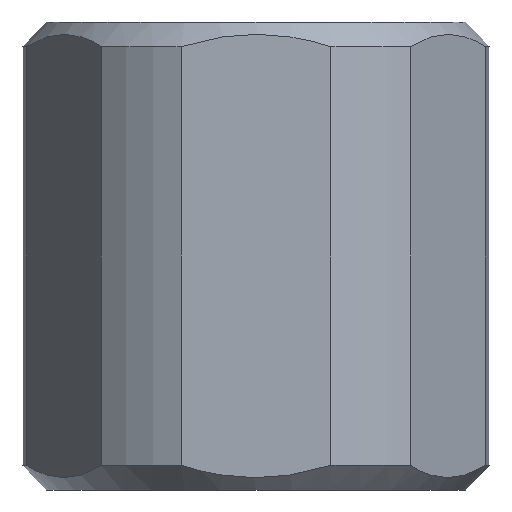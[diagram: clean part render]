
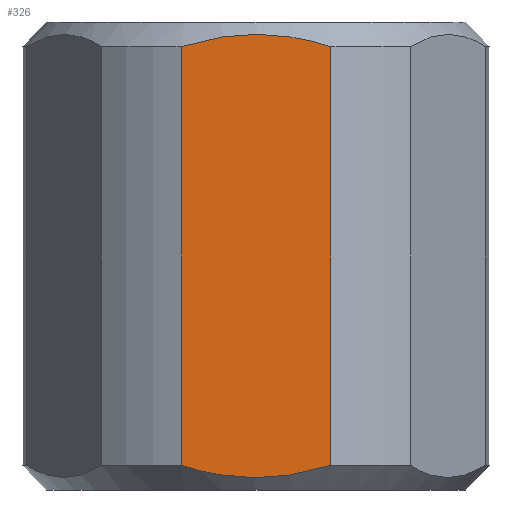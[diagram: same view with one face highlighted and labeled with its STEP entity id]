
A CAD part, left-side view. The second image highlights one B-rep face of the part: STEP entity #326.
In plain terms, the highlighted planar face has unit normal (-1, 0, 0).
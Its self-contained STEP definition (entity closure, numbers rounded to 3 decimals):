
#47=FACE_OUTER_BOUND('',#66,.T.);
#66=EDGE_LOOP('',(#218,#219,#220,#221));
#87=LINE('',#509,#104);
#88=LINE('',#514,#105);
#104=VECTOR('',#410,10.);
#105=VECTOR('',#411,10.);
#121=(
BOUNDED_CURVE()
B_SPLINE_CURVE(2,(#505,#506,#507),.UNSPECIFIED.,.F.,.F.)
B_SPLINE_CURVE_WITH_KNOTS((3,3),(0.,0.308),.UNSPECIFIED.)
CURVE()
GEOMETRIC_REPRESENTATION_ITEM()
RATIONAL_B_SPLINE_CURVE((1.,1.056,1.))
REPRESENTATION_ITEM('')
);
#122=(
BOUNDED_CURVE()
B_SPLINE_CURVE(2,(#511,#512,#513),.UNSPECIFIED.,.F.,.F.)
B_SPLINE_CURVE_WITH_KNOTS((3,3),(0.,0.308),.UNSPECIFIED.)
CURVE()
GEOMETRIC_REPRESENTATION_ITEM()
RATIONAL_B_SPLINE_CURVE((1.,1.056,1.))
REPRESENTATION_ITEM('')
);
#135=VERTEX_POINT('',#503);
#136=VERTEX_POINT('',#504);
#137=VERTEX_POINT('',#508);
#138=VERTEX_POINT('',#510);
#168=EDGE_CURVE('',#135,#136,#121,.T.);
#169=EDGE_CURVE('',#137,#135,#87,.T.);
#170=EDGE_CURVE('',#138,#137,#122,.T.);
#171=EDGE_CURVE('',#136,#138,#88,.T.);
#218=ORIENTED_EDGE('',*,*,#168,.F.);
#219=ORIENTED_EDGE('',*,*,#169,.F.);
#220=ORIENTED_EDGE('',*,*,#170,.F.);
#221=ORIENTED_EDGE('',*,*,#171,.F.);
#318=PLANE('',#368);
#326=ADVANCED_FACE('',(#47),#318,.F.);
#368=AXIS2_PLACEMENT_3D('',#502,#408,#409);
#408=DIRECTION('center_axis',(1.,0.,0.));
#409=DIRECTION('ref_axis',(0.,-1.,0.));
#410=DIRECTION('',(0.,0.,-1.));
#411=DIRECTION('',(0.,0.,1.));
#502=CARTESIAN_POINT('Origin',(-4.5,2.598,9.5));
#503=CARTESIAN_POINT('',(-4.5,-1.521,0.5));
#504=CARTESIAN_POINT('',(-4.5,1.521,0.5));
#505=CARTESIAN_POINT('Ctrl Pts',(-4.5,-1.521,0.5));
#506=CARTESIAN_POINT('Ctrl Pts',(-4.5,0.,0.013));
#507=CARTESIAN_POINT('Ctrl Pts',(-4.5,1.521,0.5));
#508=CARTESIAN_POINT('',(-4.5,-1.521,9.));
#509=CARTESIAN_POINT('',(-4.5,-1.521,0.));
#510=CARTESIAN_POINT('',(-4.5,1.521,9.));
#511=CARTESIAN_POINT('Ctrl Pts',(-4.5,1.521,9.));
#512=CARTESIAN_POINT('Ctrl Pts',(-4.5,0.,9.487));
#513=CARTESIAN_POINT('Ctrl Pts',(-4.5,-1.521,9.));
#514=CARTESIAN_POINT('',(-4.5,1.521,0.));
